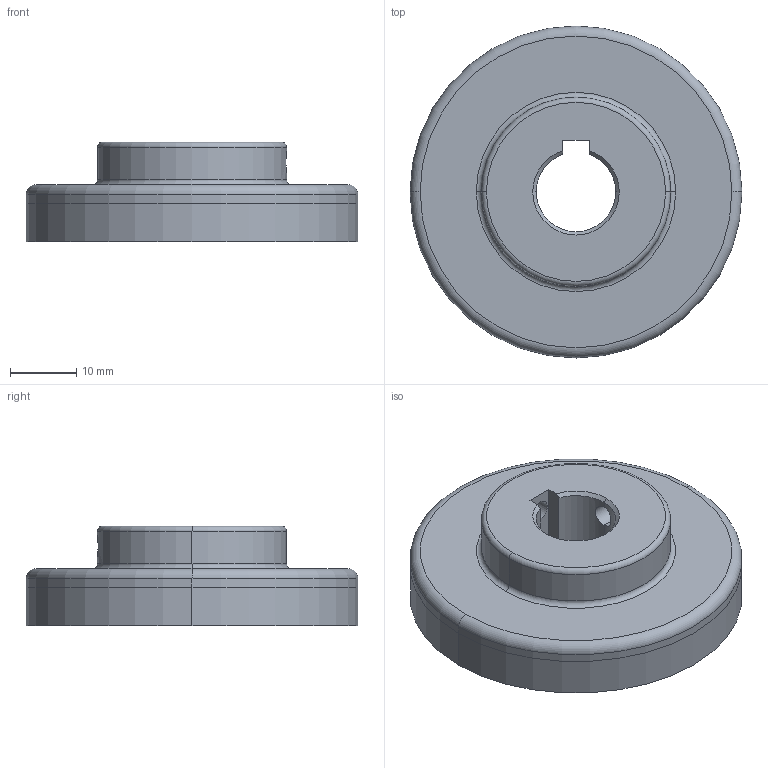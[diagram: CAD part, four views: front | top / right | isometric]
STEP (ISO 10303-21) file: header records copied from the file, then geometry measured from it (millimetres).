
FILE_DESCRIPTION (( 'STEP AP214' ), '1' );
FILE_NAME ('85 Z 0001 A 000 - MTD-0.6 (Kupplungshälfte).STEP', '2016-08-09T07:38:44', ( '' ), ( '' ), 'SwSTEP 2.0', 'SolidWorks 2016', '' );
FILE_SCHEMA (( 'AUTOMOTIVE_DESIGN' ));
Length unit declared in the file: millimetre
Products named in the file (2): 85 Z 0001 A 000  -  MTD-0.6 (Kupplungshälfte); 85 Z 0001 B 100  -  MTD-0.6 (Kupplungshälfte)_Bohrung = ›10
Assembly tree (1 placements, depth 2):
  85 Z 0001 A 000  -  MTD-0.6 (Kupplungshälfte)
    85 Z 0001 B 100  -  MTD-0.6 (Kupplungshälfte)_Bohrung = ›10
Bounding box: 50 x 50 x 15 mm (x, y, z)
Volume: 18946.3 mm3; surface area: 10228 mm2
Topology: 2 solids, 2 shells, 38 faces, 88 edges, 54 vertices
Faces by surface type: cylinder 17, plane 9, cone 6, torus 6
Entity records: 1441 total; most frequent: CARTESIAN_POINT 358, DIRECTION 208, ORIENTED_EDGE 176, AXIS2_PLACEMENT_3D 88, EDGE_CURVE 88, VERTEX_POINT 54, EDGE_LOOP 46, CIRCLE 46
